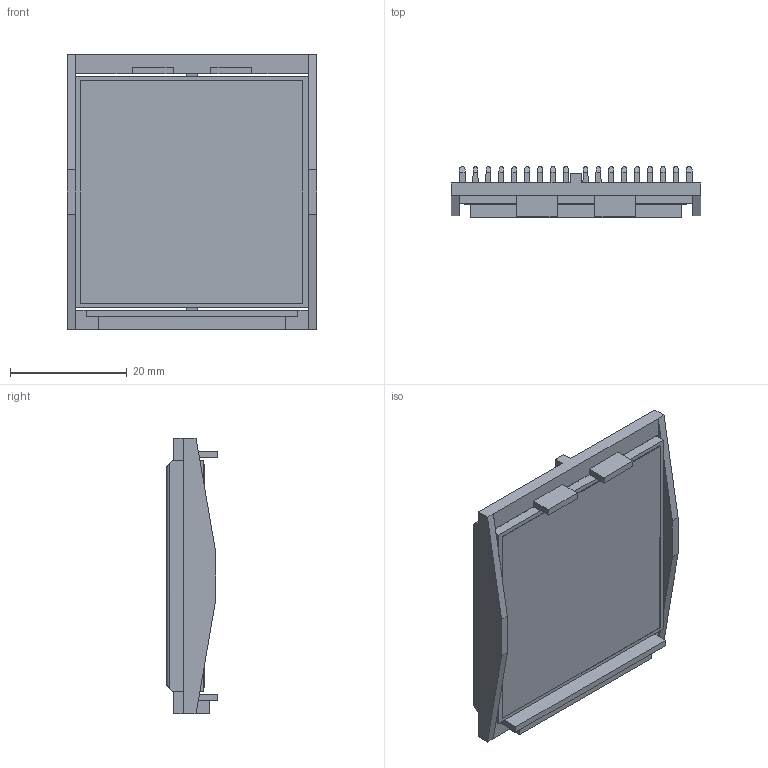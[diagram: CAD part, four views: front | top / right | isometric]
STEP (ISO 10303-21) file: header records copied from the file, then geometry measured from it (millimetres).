
FILE_DESCRIPTION (( 'STEP AP214' ), '1' );
FILE_NAME ('INL40001-6-1.7Y.STEP', '2023-03-01T17:05:50', ( '' ), ( '' ), 'SwSTEP 2.0', 'SolidWorks 2020', '' );
FILE_SCHEMA (( 'AUTOMOTIVE_DESIGN' ));
Length unit declared in the file: millimetre
Products named in the file (1): INL40001-6-1.7Y
Bounding box: 42.7 x 8.6 x 47.1 mm (x, y, z)
Volume: 7407.1 mm3; surface area: 15150.7 mm2
Topology: 3 solids, 3 shells, 198 faces, 578 edges, 384 vertices
Faces by surface type: plane 146, cylinder 52
Entity records: 8712 total; most frequent: CARTESIAN_POINT 1269, ORIENTED_EDGE 1156, DIRECTION 1008, EDGE_CURVE 578, LINE 474, VECTOR 474, VERTEX_POINT 384, AXIS2_PLACEMENT_3D 267
